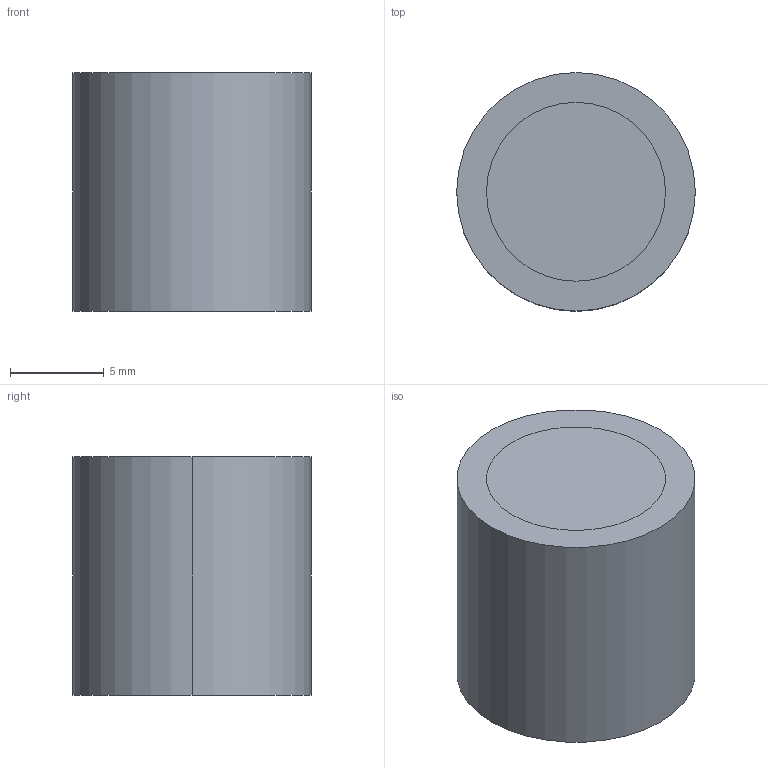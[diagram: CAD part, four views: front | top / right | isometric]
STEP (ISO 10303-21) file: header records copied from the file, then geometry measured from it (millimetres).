
FILE_DESCRIPTION (( 'STEP AP203' ), '1' );
FILE_NAME ('RBS5050.STEP', '2018-08-02T14:22:27', ( '' ), ( '' ), 'SwSTEP 2.0', 'SolidWorks 2015', '' );
FILE_SCHEMA (( 'CONFIG_CONTROL_DESIGN' ));
Length unit declared in the file: inch
Products named in the file (1): RBS5050
Bounding box: 12.7 x 12.7 x 12.7 mm (x, y, z)
Volume: 1608.8 mm3; surface area: 1520.1 mm2
Topology: 2 solids, 2 shells, 10 faces, 18 edges, 12 vertices
Faces by surface type: cylinder 6, plane 4
Entity records: 335 total; most frequent: DIRECTION 52, CARTESIAN_POINT 41, ORIENTED_EDGE 36, AXIS2_PLACEMENT_3D 23, EDGE_CURVE 18, VERTEX_POINT 12, CIRCLE 12, EDGE_LOOP 12
